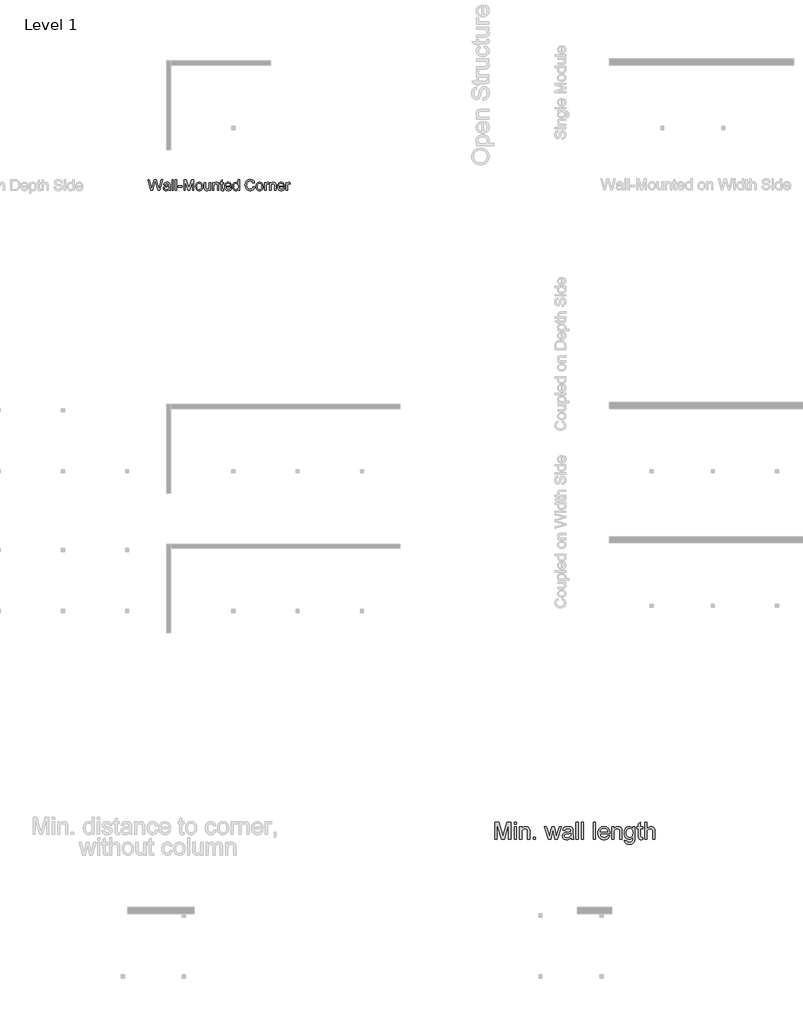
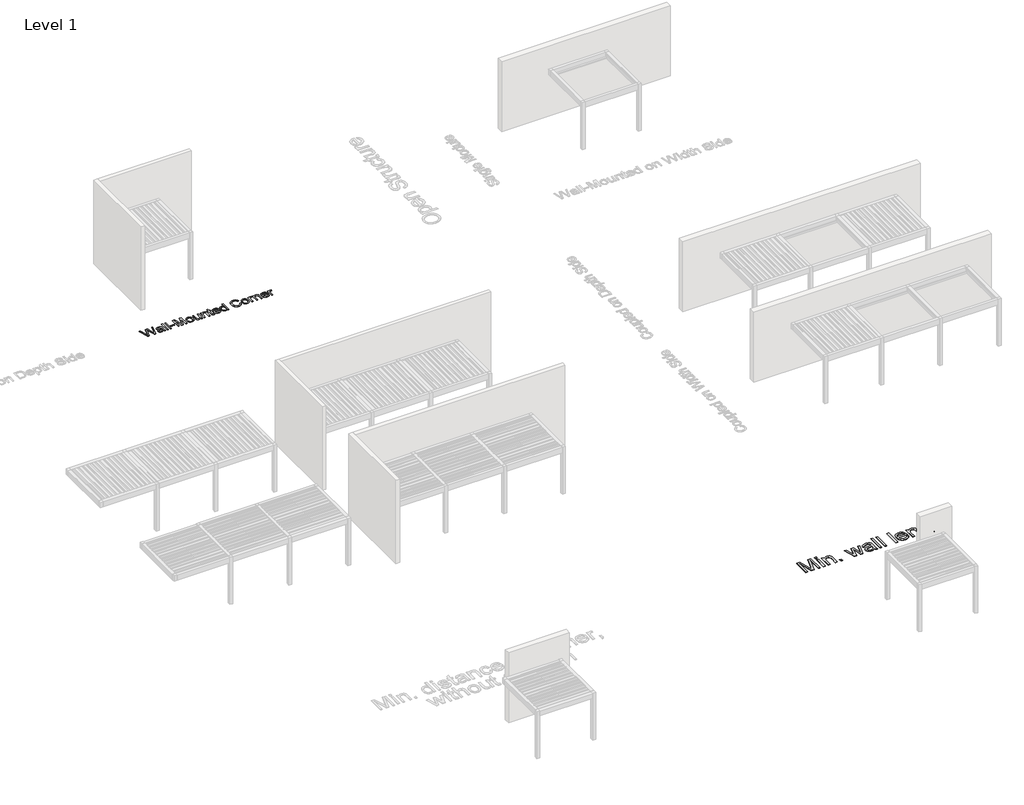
# One storey, part 60 of 80: 2 proxies.
"""IFC4 building model written with IfcOpenShell, lengths in millimetres."""

from ifc_helpers import new_model, si_unit, origin, origin_with_axes, place, context, project, spatial, polyline, outline, extrude, element, save

model = new_model("IFC4")

# Units and contexts
model_context = context("Model", 3, world=origin())
ifc_project = project(units=[si_unit("LENGTHUNIT", "METRE", prefix="MILLI")], contexts=[model_context])

# Site, building, storey
site = spatial("IfcSite", under=ifc_project)
building = spatial("IfcBuilding", under=site)
storey = spatial("IfcBuildingStorey", under=building, Name="Level 1", Elevation=0.0)

# Proxies
placement = place(None, origin())
element("IfcBuildingElementProxy", 1, Name="500mm Arial", ObjectType="500mm Arial", at=placement, inside=storey, context=model_context, shape_type="SweptSolid", body=[
    extrude(outline(polyline([(152943.9128055, 63184.635256), (152806.938076, 63686.9168067), (152871.6853072, 63686.9168067), (152951.1478181, 63356.8040297), (152975.6732845, 63254.9007171), (153001.9155334, 63345.0318059), (153101.4889268, 63686.9168067), (153194.8083262, 63686.9168067), (153267.158452, 63439.0869693), (153298.1525101, 63347.1164705), (153320.9918506, 63254.9007171), (153344.7815529, 63353.8609738), (153424.9798279, 63686.9168067), (153489.727059, 63686.9168067), (153352.6297022, 63184.635256), (153285.5525517, 63184.635256), (153165.132512, 63572.1376242), (153148.3325675, 63626.2162775), (153129.4479584, 63561.1011644), (153019.6964965, 63184.635256), (152943.9128055, 63184.635256)])), origin_with_axes(), (0.0, 0.0, 1.0), 5.0),
    extrude(outline(polyline([(153780.1085806, 63231.7241514), (153750.1108696, 63206.0030685), (153719.2241104, 63189.1724673), (153686.7431959, 63179.8834469), (153651.9630189, 63176.7871068), (153624.0078194, 63178.6495094), (153599.4938494, 63184.2367172), (153578.4211088, 63193.5487302), (153560.7895978, 63206.5855484), (153546.8675635, 63222.5194373), (153536.9232533, 63240.5226624), (153530.9566672, 63260.5952238), (153528.9678052, 63282.7371214), (153531.9721748, 63308.7647725), (153540.9852837, 63332.4011907), (153554.8881574, 63352.6347005), (153572.5618216, 63368.4536262), (153593.3318259, 63380.4097911), (153616.5237201, 63389.055018), (153670.847628, 63398.4973225), (153735.0430362, 63408.4301364), (153779.7406986, 63420.0797329), (153780.1085806, 63434.0592487), (153775.7859671, 63462.079594), (153762.8181268, 63480.4123801), (153749.7429876, 63488.3524998), (153733.8167628, 63494.0240139), (153693.411057, 63498.5612252), (153656.0097209, 63495.5415272), (153629.8900992, 63486.482433), (153612.0784793, 63469.7284738), (153599.6011483, 63443.6241806), (153536.8159544, 63451.4723298), (153547.7144585, 63485.8079827), (153563.9779084, 63512.7859957), (153587.1238173, 63533.4180443), (153618.6696984, 63548.7158039), (153657.2513226, 63558.1887653), (153701.5044609, 63561.3464191), (153743.9488461, 63558.5566473), (153777.5947203, 63550.1873319), (153802.9632495, 63537.6027019), (153820.5756, 63522.1669866), (153832.2558534, 63503.0831081), (153839.8280911, 63479.5539888), (153842.8937744, 63424.6169442), (153842.8937744, 63346.5033339), (153846.082085, 63237.4263223), (153850.8032373, 63210.4636377), (153858.5900729, 63184.635256), (153795.804879, 63184.635256), (153785.7494378, 63206.462921), (153780.1085806, 63231.7241514)]), holes=[polyline([(153780.1085806, 63357.2945391), (153737.9247785, 63346.840559), (153678.8184046, 63338.042048), (153624.8010649, 63327.8639794), (153610.744907, 63320.9048784), (153600.3369123, 63311.3092897), (153593.8989773, 63299.8129773), (153591.752999, 63287.1517053), (153596.4281661, 63268.4816941), (153610.4536671, 63253.1839344), (153633.5229339, 63242.9752091), (153665.3293981, 63239.5723006), (153699.0519143, 63243.3277626), (153728.8503559, 63254.5941487), (153753.0079403, 63271.1948238), (153769.8078847, 63290.9531526), (153777.2574951, 63311.3092897), (153779.7406986, 63339.513576), (153780.1085806, 63357.2945391)])]), origin_with_axes(), (0.0, 0.0, 1.0), 5.0),
    extrude(outline(polyline([(153929.223416, 63184.635256), (153929.223416, 63686.9168067), (153992.0086098, 63686.9168067), (153992.0086098, 63184.635256), (153929.223416, 63184.635256)])), origin_with_axes(), (0.0, 0.0, 1.0), 5.0),
    extrude(outline(polyline([(154086.1864006, 63184.635256), (154086.1864006, 63686.9168067), (154148.9715944, 63686.9168067), (154148.9715944, 63184.635256), (154086.1864006, 63184.635256)])), origin_with_axes(), (0.0, 0.0, 1.0), 5.0),
    extrude(outline(polyline([(154211.7567882, 63333.7500914), (154211.7567882, 63396.5352852), (154407.960519, 63396.5352852), (154407.960519, 63333.7500914), (154211.7567882, 63333.7500914)])), origin_with_axes(), (0.0, 0.0, 1.0), 5.0),
    extrude(outline(polyline([(154486.4420113, 63184.635256), (154486.4420113, 63686.9168067), (154594.4766906, 63686.9168067), (154697.2383946, 63332.8917), (154717.9624136, 63258.947419), (154740.4032153, 63339.0230666), (154841.4481367, 63686.9168067), (154949.4828159, 63686.9168067), (154949.4828159, 63184.635256), (154886.6976221, 63184.635256), (154886.6976221, 63624.1316129), (154760.5140977, 63184.635256), (154675.4107295, 63184.635256), (154549.2272052, 63624.1316129), (154549.2272052, 63184.635256), (154486.4420113, 63184.635256)])), origin_with_axes(), (0.0, 0.0, 1.0), 5.0),
    extrude(outline(polyline([(155035.8124574, 63369.0667629), (155039.2077017, 63416.8377728), (155049.3934344, 63458.0022352), (155066.3696557, 63492.5601502), (155090.1363654, 63520.5115176), (155114.0640235, 63538.376787), (155140.4748851, 63551.1376937), (155169.3689501, 63558.7942377), (155200.7462186, 63561.3464191), (155235.3846077, 63558.2385826), (155266.7043947, 63548.9150733), (155294.7055794, 63533.3758911), (155319.3881621, 63511.621036), (155339.5335334, 63484.3862721), (155353.9230844, 63452.4073632), (155362.5568149, 63415.6843095), (155365.4347251, 63374.2171108), (155360.3456909, 63310.7881235), (155353.984398, 63284.7528081), (155345.0785881, 63262.5036116), (155333.739392, 63243.2856095), (155320.0779408, 63226.3438772), (155304.0942345, 63211.6784147), (155285.7882732, 63199.2892221), (155245.0606706, 63182.4126356), (155200.7462186, 63176.7871068), (155165.6019918, 63179.8834469), (155133.9909649, 63189.1724673), (155105.913138, 63204.6541679), (155081.3685112, 63226.3285488), (155061.4377377, 63253.8277279), (155047.2014709, 63286.7838233), (155038.6597108, 63325.196835), (155035.8124574, 63369.0667629)]), holes=[polyline([(155098.5976513, 63369.1893902), (155100.4140686, 63338.7356588), (155105.8633207, 63312.3669504), (155114.9454074, 63290.083265), (155127.6603289, 63271.8846025), (155143.1267011, 63257.7479704), (155160.4631401, 63247.6503761), (155179.669646, 63241.5918195), (155200.7462186, 63239.5723006), (155221.7154923, 63241.6033158), (155240.8453561, 63247.6963613), (155258.1358099, 63257.8514372), (155273.5868537, 63272.0685435), (155286.3017751, 63290.4473149), (155295.3838619, 63313.087386), (155300.8331139, 63339.9887569), (155302.6495313, 63371.1514275), (155300.8216176, 63400.6394687), (155295.3378766, 63426.3183984), (155286.1983083, 63448.1882166), (155273.4029127, 63466.2489233), (155257.8943873, 63480.3855554), (155240.6154298, 63490.4831497), (155221.5660403, 63496.5417063), (155200.7462186, 63498.5612252), (155179.669646, 63496.5493705), (155160.4631401, 63490.5138066), (155143.1267011, 63480.4545333), (155127.6603289, 63466.3715506), (155114.9454074, 63448.2265376), (155105.8633207, 63425.9811732), (155100.4140686, 63399.6354574), (155098.5976513, 63369.1893902)])]), origin_with_axes(), (0.0, 0.0, 1.0), 5.0),
    extrude(outline(polyline([(155671.5125451, 63184.635256), (155671.5125451, 63248.0335865), (155648.7958319, 63216.8632516), (155622.3389851, 63194.5987267), (155592.1420047, 63181.2400117), (155558.2048906, 63176.7871068), (155527.6246997, 63179.9141037), (155499.1598304, 63189.2950946), (155475.2781575, 63203.3972377), (155458.4475562, 63220.6876915), (155447.1198565, 63241.6876221), (155439.7468881, 63266.9181956), (155436.0680682, 63325.2888055), (155436.0680682, 63553.4982698), (155498.853262, 63553.4982698), (155498.853262, 63354.8419924), (155502.6547093, 63290.8305253), (155511.805774, 63269.4780411), (155527.486744, 63253.2452481), (155548.6552871, 63242.9905375), (155574.2690711, 63239.5723006), (155601.3543829, 63243.0671796), (155626.6922554, 63253.5518164), (155647.584887, 63270.060521), (155661.3344766, 63291.6276029), (155668.968028, 63321.1654615), (155671.5125451, 63361.5864957), (155671.5125451, 63553.4982698), (155734.297739, 63553.4982698), (155734.297739, 63184.635256), (155671.5125451, 63184.635256)])), origin_with_axes(), (0.0, 0.0, 1.0), 5.0),
    extrude(outline(polyline([(155820.6273805, 63184.635256), (155820.6273805, 63553.4982698), (155883.4125743, 63553.4982698), (155883.4125743, 63501.9947905), (155905.224911, 63527.961128), (155931.4211747, 63546.5085119), (155962.0013656, 63557.6369423), (155996.9654835, 63561.3464191), (156027.9135564, 63558.3573778), (156056.2557984, 63549.3902542), (156079.8922166, 63535.5640226), (156096.7228179, 63517.9976573), (156108.1424881, 63496.7371436), (156115.5461133, 63471.8284669), (156118.8570512, 63411.1279377), (156118.8570512, 63184.635256), (156056.0718574, 63184.635256), (156056.0718574, 63402.6666518), (156054.2631043, 63435.1322379), (156048.8368448, 63458.2168331), (156038.8273889, 63474.7561944), (156023.2690462, 63487.586079), (156003.3267763, 63495.8174387), (155980.1655391, 63498.5612252), (155961.1008211, 63497.0207194), (155943.392668, 63492.3992018), (155927.0410797, 63484.6966725), (155912.0460563, 63473.9131315), (155899.5189079, 63458.8223055), (155890.5709448, 63438.1979212), (155885.202167, 63412.0399785), (155883.4125743, 63380.3484774), (155883.4125743, 63184.635256), (155820.6273805, 63184.635256)])), origin_with_axes(), (0.0, 0.0, 1.0), 5.0),
    extrude(outline(polyline([(156338.6052297, 63236.9971266), (156346.4533789, 63182.795846), (156299.4871109, 63176.7871068), (156269.3514441, 63179.3929376), (156246.8799856, 63187.21043), (156230.9997461, 63199.2585653), (156220.6377366, 63214.5563249), (156214.9355657, 63240.8292308), (156213.034842, 63285.8028047), (156213.034842, 63490.713076), (156165.9459466, 63490.713076), (156165.9459466, 63553.4982698), (156213.034842, 63553.4982698), (156213.034842, 63643.1388493), (156275.8200359, 63680.0496762), (156275.8200359, 63553.4982698), (156338.6052297, 63553.4982698), (156338.6052297, 63490.713076), (156275.8200359, 63490.713076), (156275.8200359, 63287.6422146), (156279.1309738, 63255.2685991), (156289.8608653, 63243.8029435), (156311.2593347, 63239.5723006), (156338.6052297, 63236.9971266)])), origin_with_axes(), (0.0, 0.0, 1.0), 5.0),
    extrude(outline(polyline([(156659.6435842, 63294.5093452), (156721.2025047, 63286.661196), (156711.7640322, 63262.0054381), (156699.0222861, 63240.2774078), (156682.9772661, 63221.477105), (156663.6289724, 63205.6045297), (156641.1766744, 63192.9969072), (156615.8196415, 63183.9914625), (156587.5578736, 63178.5881957), (156556.3913708, 63176.7871068), (156517.4342004, 63179.8949432), (156482.7230013, 63189.2184525), (156452.2577736, 63204.7576347), (156426.0385172, 63226.5124898), (156404.9542804, 63253.8775453), (156389.8941112, 63286.2473287), (156380.8580097, 63323.6218402), (156377.8459759, 63366.0010796), (156380.8886665, 63409.8173581), (156390.0167385, 63448.4373034), (156405.2301919, 63481.8609155), (156426.5290265, 63510.0881944), (156452.679305, 63532.5136677), (156482.4470898, 63548.5318629), (156515.8323809, 63558.14278), (156552.8351782, 63561.3464191), (156588.6461912, 63558.1504442), (156621.0313031, 63548.5625197), (156649.9905139, 63532.5826456), (156675.5238236, 63510.2108217), (156696.3666379, 63482.0448565), (156711.2543624, 63448.682558), (156720.1869971, 63410.1239264), (156723.164542, 63366.3689616), (156722.79666, 63349.4463898), (156440.6311697, 63349.4463898), (156444.2678365, 63324.3920931), (156451.499017, 63302.4494649), (156462.3247111, 63283.6185053), (156476.7449189, 63267.8992142), (156493.9625627, 63255.5061895), (156513.1805648, 63246.654029), (156534.3989253, 63241.3427327), (156557.6176442, 63239.5723006), (156591.0335921, 63242.8525817), (156619.1765647, 63252.6934251), (156642.0465621, 63269.7079674), (156659.6435842, 63294.5093452)]), holes=[polyline([(156440.6311697, 63412.2315837), (156660.3793481, 63412.2315837), (156651.8874054, 63445.4022769), (156635.2407451, 63469.1306656), (156618.1189039, 63482.0065354), (156598.6364866, 63491.2035853), (156576.7934932, 63496.7218152), (156552.5899236, 63498.5612252), (156510.2681657, 63492.6904417), (156491.8549054, 63485.3519623), (156475.2733909, 63475.0780912), (156461.3590209, 63462.3440092), (156450.947194, 63447.6248973), (156444.0379103, 63430.9207554), (156440.6311697, 63412.2315837)])]), origin_with_axes(), (0.0, 0.0, 1.0), 5.0),
    extrude(outline(polyline([(157013.5460635, 63184.635256), (157013.5460635, 63243.8642572), (156994.7610891, 63214.5180039), (156972.0060549, 63193.5563944), (156945.2809608, 63180.9794287), (156914.5858068, 63176.7871068), (156873.99616, 63182.8571597), (156836.8400785, 63201.0673184), (156805.3861679, 63230.1453245), (156781.9030339, 63268.8189192), (156767.2797246, 63315.5246042), (156762.4052881, 63368.6988809), (156766.8965142, 63421.2140357), (156780.3701922, 63468.6401563), (156790.4716187, 63489.7703784), (156802.8109939, 63508.2794412), (156817.388318, 63524.1673449), (156834.2035909, 63537.4340894), (156872.1720785, 63555.3683366), (156914.3405521, 63561.3464191), (156945.0586987, 63557.0697909), (156972.2206527, 63544.2399063), (156995.2439343, 63524.573548), (157013.5460635, 63499.7874985), (157013.5460635, 63686.9168067), (157076.3312574, 63686.9168067), (157076.3312574, 63184.635256), (157013.5460635, 63184.635256)]), holes=[polyline([(156825.190482, 63368.9441356), (156826.9609141, 63338.4980684), (156832.2722104, 63312.1523526), (156841.1243709, 63289.9069882), (156853.5173956, 63271.7619752), (156868.3169817, 63257.6789926), (156884.3888264, 63247.6197192), (156901.7329296, 63241.5841553), (156920.3492914, 63239.5723006), (156939.0537916, 63241.4921848), (156956.294428, 63247.2518373), (156972.0712007, 63256.8512581), (156986.3841095, 63270.2904472), (156998.2674644, 63287.6767036), (157006.755575, 63309.1173261), (157011.8484414, 63334.6123148), (157013.5460635, 63364.1616696), (157011.8177846, 63396.5582778), (157006.6329477, 63424.3410327), (156997.9915529, 63447.5099342), (156985.8936002, 63466.0649823), (156971.2664588, 63480.2820886), (156955.0374979, 63490.4371645), (156937.2067174, 63496.53021), (156917.7741174, 63498.5612252), (156898.7898736, 63496.6106842), (156881.4457704, 63490.7590612), (156865.7418077, 63481.0063563), (156851.6779856, 63467.3525693), (156840.0897028, 63449.4987962), (156831.8123579, 63427.1461329), (156826.845951, 63400.2945794), (156825.190482, 63368.9441356)])]), origin_with_axes(), (0.0, 0.0, 1.0), 5.0),
    extrude(outline(polyline([(157727.7276435, 63363.180651), (157790.5128373, 63346.9938432), (157778.0891558, 63307.9485344), (157761.5421302, 63273.8313114), (157740.8717606, 63244.6421744), (157716.078047, 63220.3811232), (157687.7204765, 63201.308741), (157656.3585364, 63187.6856109), (157621.9922267, 63179.5117328), (157584.6215474, 63176.7871068), (157546.3349951, 63178.8487788), (157511.7962407, 63185.0337948), (157481.0052842, 63195.3421549), (157453.9621254, 63209.773859), (157430.2950504, 63228.1143093), (157409.632345, 63250.148908), (157391.9740092, 63275.877655), (157377.3200431, 63305.3005504), (157365.8122344, 63337.1453356), (157357.5923711, 63370.1397521), (157352.6604531, 63404.2837997), (157351.0164804, 63439.5774786), (157352.8750509, 63477.4463315), (157358.4507624, 63512.8166525), (157367.7436149, 63545.6884416), (157380.7536084, 63576.0616989), (157397.1895029, 63603.4344186), (157416.7600586, 63627.3045951), (157439.4652755, 63647.6722285), (157465.3051536, 63664.5373187), (157493.402141, 63677.76191), (157522.8786858, 63687.2080467), (157553.7347882, 63692.8757286), (157585.970448, 63694.764956), (157621.8810957, 63692.3200735), (157654.8103664, 63684.9854263), (157684.75826, 63672.7610141), (157711.7247767, 63655.6468371), (157735.2653923, 63634.0950836), (157754.9355827, 63608.5579418), (157770.735348, 63579.0354117), (157782.6646881, 63545.5274933), (157719.8794943, 63530.5669588), (157709.9926656, 63555.2572056), (157698.1131429, 63576.3529388), (157684.240926, 63593.8541583), (157668.3760149, 63607.7608641), (157650.4264392, 63618.356632), (157630.3002284, 63625.9250376), (157607.9973825, 63630.466081), (157583.5179014, 63631.9797621), (157555.3519361, 63630.3013005), (157529.5925322, 63625.2659157), (157506.2396898, 63616.8736077), (157485.2934087, 63605.1243765), (157467.0181041, 63590.5470524), (157451.6781914, 63573.6704659), (157439.2736703, 63554.4946169), (157429.8045411, 63533.0195054), (157417.802391, 63487.0649129), (157413.8016743, 63439.700106), (157418.538155, 63381.6973781), (157432.747597, 63331.5427994), (157443.5388022, 63309.887579), (157456.966495, 63291.152422), (157473.0306755, 63275.3373283), (157491.7313436, 63262.442298), (157533.4093079, 63245.2897999), (157578.3675534, 63239.5723006), (157605.6636311, 63241.5190095), (157630.7754093, 63247.3591362), (157653.7028883, 63257.0926806), (157674.4460679, 63270.7196429), (157692.5144388, 63288.1787092), (157707.4174917, 63309.408566), (157719.1552266, 63334.4092133), (157727.7276435, 63363.180651)])), origin_with_axes(), (0.0, 0.0, 1.0), 5.0),
    extrude(outline(polyline([(157853.2980312, 63369.0667629), (157856.6932754, 63416.8377728), (157866.8790082, 63458.0022352), (157883.8552294, 63492.5601502), (157907.6219391, 63520.5115176), (157931.5495972, 63538.376787), (157957.9604588, 63551.1376937), (157986.8545238, 63558.7942377), (158018.2317923, 63561.3464191), (158052.8701815, 63558.2385826), (158084.1899684, 63548.9150733), (158112.1911532, 63533.3758911), (158136.8737358, 63511.621036), (158157.0191071, 63484.3862721), (158171.4086581, 63452.4073632), (158180.0423887, 63415.6843095), (158182.9202989, 63374.2171108), (158177.8312646, 63310.7881235), (158171.4699718, 63284.7528081), (158162.5641618, 63262.5036116), (158151.2249657, 63243.2856095), (158137.5635145, 63226.3438772), (158121.5798083, 63211.6784147), (158103.2738469, 63199.2892221), (158062.5462443, 63182.4126356), (158018.2317923, 63176.7871068), (157983.0875655, 63179.8834469), (157951.4765386, 63189.1724673), (157923.3987118, 63204.6541679), (157898.8540849, 63226.3285488), (157878.9233114, 63253.8277279), (157864.6870446, 63286.7838233), (157856.1452845, 63325.196835), (157853.2980312, 63369.0667629)]), holes=[polyline([(157916.083225, 63369.1893902), (157917.8996424, 63338.7356588), (157923.3488944, 63312.3669504), (157932.4309812, 63290.083265), (157945.1459026, 63271.8846025), (157960.6122748, 63257.7479704), (157977.9487139, 63247.6503761), (157997.1552197, 63241.5918195), (158018.2317923, 63239.5723006), (158039.2010661, 63241.6033158), (158058.3309298, 63247.6963613), (158075.6213836, 63257.8514372), (158091.0724274, 63272.0685435), (158103.7873488, 63290.4473149), (158112.8694356, 63313.087386), (158118.3186877, 63339.9887569), (158120.135105, 63371.1514275), (158118.3071913, 63400.6394687), (158112.8234504, 63426.3183984), (158103.683882, 63448.1882166), (158090.8884864, 63466.2489233), (158075.379961, 63480.3855554), (158058.1010036, 63490.4831497), (158039.051614, 63496.5417063), (158018.2317923, 63498.5612252), (157997.1552197, 63496.5493705), (157977.9487139, 63490.5138066), (157960.6122748, 63480.4545333), (157945.1459026, 63466.3715506), (157932.4309812, 63448.2265376), (157923.3488944, 63425.9811732), (157917.8996424, 63399.6354574), (157916.083225, 63369.1893902)])]), origin_with_axes(), (0.0, 0.0, 1.0), 5.0),
    extrude(outline(polyline([(158253.5536419, 63184.635256), (158253.5536419, 63553.4982698), (158308.4906865, 63553.4982698), (158308.4906865, 63498.9291072), (158328.7855099, 63530.5669588), (158347.486178, 63549.2063132), (158366.2481598, 63558.3113926), (158386.7269242, 63561.3464191), (158417.9968938, 63556.5026394), (158449.7573727, 63541.9713006), (158428.788099, 63485.6853554), (158406.7151793, 63495.3422578), (158384.6422595, 63498.5612252), (158365.8956062, 63495.4648851), (158349.141647, 63486.1758647), (158335.6066553, 63471.3992712), (158326.5169043, 63451.8402118), (158318.8833529, 63416.7687949), (158316.3388358, 63378.5090674), (158316.3388358, 63184.635256), (158253.5536419, 63184.635256)])), origin_with_axes(), (0.0, 0.0, 1.0), 5.0),
    extrude(outline(polyline([(158488.9981188, 63184.635256), (158488.9981188, 63553.4982698), (158551.7833127, 63553.4982698), (158551.7833127, 63501.9947905), (158573.5956493, 63527.961128), (158599.7919131, 63546.5085119), (158630.3721039, 63557.6369423), (158665.3362219, 63561.3464191), (158696.2842947, 63558.3573778), (158724.6265367, 63549.3902542), (158748.2629549, 63535.5640226), (158765.0935562, 63517.9976573), (158776.5132265, 63496.7371436), (158783.9168516, 63471.8284669), (158787.2277896, 63411.1279377), (158787.2277896, 63184.635256), (158724.4425958, 63184.635256), (158724.4425958, 63402.6666518), (158722.6338426, 63435.1322379), (158717.2075832, 63458.2168331), (158707.1981272, 63474.7561944), (158691.6397845, 63487.586079), (158671.6975147, 63495.8174387), (158648.5362774, 63498.5612252), (158629.4715594, 63497.0207194), (158611.7634063, 63492.3992018), (158595.411818, 63484.6966725), (158580.4167946, 63473.9131315), (158567.8896463, 63458.8223055), (158558.9416832, 63438.1979212), (158553.5729053, 63412.0399785), (158551.7833127, 63380.3484774), (158551.7833127, 63184.635256), (158488.9981188, 63184.635256)])), origin_with_axes(), (0.0, 0.0, 1.0), 5.0),
    extrude(outline(polyline([(159131.8105917, 63294.5093452), (159193.3695123, 63286.661196), (159183.9310398, 63262.0054381), (159171.1892936, 63240.2774078), (159155.1442737, 63221.477105), (159135.79598, 63205.6045297), (159113.343682, 63192.9969072), (159087.9866491, 63183.9914625), (159059.7248812, 63178.5881957), (159028.5583784, 63176.7871068), (158989.601208, 63179.8949432), (158954.8900089, 63189.2184525), (158924.4247812, 63204.7576347), (158898.2055248, 63226.5124898), (158877.121288, 63253.8775453), (158862.0611188, 63286.2473287), (158853.0250173, 63323.6218402), (158850.0129834, 63366.0010796), (158853.0556741, 63409.8173581), (158862.1837461, 63448.4373034), (158877.3971995, 63481.8609155), (158898.6960341, 63510.0881944), (158924.8463126, 63532.5136677), (158954.6140974, 63548.5318629), (158987.9993885, 63558.14278), (159025.0021858, 63561.3464191), (159060.8131988, 63558.1504442), (159093.1983107, 63548.5625197), (159122.1575215, 63532.5826456), (159147.6908312, 63510.2108217), (159168.5336455, 63482.0448565), (159183.42137, 63448.682558), (159192.3540047, 63410.1239264), (159195.3315496, 63366.3689616), (159194.9636676, 63349.4463898), (158912.7981773, 63349.4463898), (158916.4348441, 63324.3920931), (158923.6660246, 63302.4494649), (158934.4917187, 63283.6185053), (158948.9119265, 63267.8992142), (158966.1295703, 63255.5061895), (158985.3475724, 63246.654029), (159006.5659329, 63241.3427327), (159029.7846517, 63239.5723006), (159063.2005996, 63242.8525817), (159091.3435723, 63252.6934251), (159114.2135696, 63269.7079674), (159131.8105917, 63294.5093452)]), holes=[polyline([(158912.7981773, 63412.2315837), (159132.5463557, 63412.2315837), (159124.054413, 63445.4022769), (159107.4077527, 63469.1306656), (159090.2859115, 63482.0065354), (159070.8034942, 63491.2035853), (159048.9605007, 63496.7218152), (159024.7569311, 63498.5612252), (158982.4351733, 63492.6904417), (158964.021913, 63485.3519623), (158947.4403985, 63475.0780912), (158933.5260284, 63462.3440092), (158923.1142016, 63447.6248973), (158916.2049178, 63430.9207554), (158912.7981773, 63412.2315837)])]), origin_with_axes(), (0.0, 0.0, 1.0), 5.0),
    extrude(outline(polyline([(159258.1167434, 63184.635256), (159258.1167434, 63553.4982698), (159313.053788, 63553.4982698), (159313.053788, 63498.9291072), (159333.3486114, 63530.5669588), (159352.0492795, 63549.2063132), (159370.8112613, 63558.3113926), (159391.2900257, 63561.3464191), (159422.5599953, 63556.5026394), (159454.3204742, 63541.9713006), (159433.3512005, 63485.6853554), (159411.2782807, 63495.3422578), (159389.205361, 63498.5612252), (159370.4587077, 63495.4648851), (159353.7047485, 63486.1758647), (159340.1697568, 63471.3992712), (159331.0800058, 63451.8402118), (159323.4464544, 63416.7687949), (159320.9019373, 63378.5090674), (159320.9019373, 63184.635256), (159258.1167434, 63184.635256)])), origin_with_axes(), (0.0, 0.0, 1.0), 5.0),
])
element("IfcBuildingElementProxy", 2, Name="800mm Arial", ObjectType="800mm Arial", at=placement, inside=storey, context=model_context, shape_type="SweptSolid", body=[
    extrude(outline(polyline([(169014.3601901, 32902.4008009), (169014.3601901, 33701.7894992), (169186.299019, 33701.7894992), (169349.8458279, 33138.3531779), (169382.8284182, 33020.6697343), (169418.5432941, 33148.1113407), (169579.3578174, 33701.7894992), (169751.2966464, 33701.7894992), (169751.2966464, 32902.4008009), (169651.3730591, 32902.4008009), (169651.3730591, 33601.8659119), (169450.5500682, 32902.4008009), (169315.1067682, 32902.4008009), (169114.2837774, 33601.8659119), (169114.2837774, 32902.4008009), (169014.3601901, 32902.4008009)])), origin_with_axes(), (0.0, 0.0, 1.0), 5.0),
    extrude(outline(polyline([(169913.6724757, 33601.8659119), (169913.6724757, 33701.7894992), (170013.596063, 33701.7894992), (170013.596063, 33601.8659119), (169913.6724757, 33601.8659119)])), origin_with_axes(), (0.0, 0.0, 1.0), 5.0),
    extrude(outline(polyline([(169913.6724757, 32902.4008009), (169913.6724757, 33489.4518762), (170013.596063, 33489.4518762), (170013.596063, 32902.4008009), (169913.6724757, 32902.4008009)])), origin_with_axes(), (0.0, 0.0, 1.0), 5.0),
    extrude(outline(polyline([(170163.4814439, 32902.4008009), (170163.4814439, 33489.4518762), (170263.4050312, 33489.4518762), (170263.4050312, 33407.4833085), (170279.8902275, 33429.6221404), (170298.1196955, 33448.8091281), (170318.093435, 33465.0442715), (170339.8114461, 33478.3275706), (170363.2737289, 33488.6590255), (170388.4802832, 33496.0386361), (170444.1262067, 33501.9423246), (170493.3805335, 33497.1852202), (170538.4876412, 33482.9139071), (170576.1053588, 33460.90925), (170602.8915158, 33432.9521135), (170621.066094, 33399.1156839), (170632.8490757, 33359.4731474), (170636.8011316, 33321.5626849), (170638.1184836, 33262.8673355), (170638.1184836, 32902.4008009), (170538.1948963, 32902.4008009), (170538.1948963, 33249.4010708), (170535.3162383, 33301.0705429), (170526.6802642, 33337.810026), (170510.7500633, 33364.1326702), (170485.9887252, 33384.5516259), (170454.2503006, 33397.6519595), (170417.3888406, 33402.0187373), (170387.047053, 33399.5669989), (170358.864259, 33392.2117837), (170332.8404586, 33379.9530917), (170308.9756516, 33362.7909228), (170289.0385052, 33338.7736445), (170274.7976863, 33305.9496244), (170266.253195, 33264.3188622), (170263.4050312, 33213.8813581), (170263.4050312, 32902.4008009), (170163.4814439, 32902.4008009)])), origin_with_axes(), (0.0, 0.0, 1.0), 5.0),
    extrude(outline(polyline([(170800.4943129, 32902.4008009), (170800.4943129, 33002.3243882), (170900.4179002, 33002.3243882), (170900.4179002, 32902.4008009), (170800.4943129, 32902.4008009)])), origin_with_axes(), (0.0, 0.0, 1.0), 5.0),
    extrude(outline(polyline([(171497.4223016, 32902.4008009), (171318.847922, 33489.4518762), (171422.6747744, 33489.4518762), (171523.9645045, 33146.9403612), (171554.2148093, 33024.5729994), (171579.0005428, 33142.4516063), (171659.6029677, 33489.4518762), (171778.6525542, 33489.4518762), (171858.8646526, 33143.4274226), (171880.9181005, 33036.6731213), (171912.5345481, 33149.2823203), (172014.0194414, 33489.4518762), (172118.2366203, 33489.4518762), (171938.2960979, 32902.4008009), (171817.4900422, 32902.4008009), (171740.7908824, 33246.6687852), (171718.5422712, 33354.0085762), (171619.5945002, 32902.4008009), (171497.4223016, 32902.4008009)])), origin_with_axes(), (0.0, 0.0, 1.0), 5.0),
    extrude(outline(polyline([(172561.647539, 32977.3434913), (172513.9057274, 32936.4079983), (172489.5042215, 32921.2462528), (172464.7489821, 32909.6218414), (172413.0551146, 32894.8382247), (172357.701936, 32889.9103525), (172313.2108124, 32892.8743944), (172274.1964576, 32901.7665203), (172240.6588718, 32916.5867301), (172212.5980548, 32937.3350238), (172190.4409264, 32962.6940494), (172174.6144061, 32991.346455), (172165.1184939, 33023.2922405), (172161.9531898, 33058.531406), (172166.7346896, 33099.9548072), (172181.0791889, 33137.5725249), (172203.2058231, 33169.7744622), (172231.3337275, 33194.9505223), (172264.389504, 33213.9789398), (172301.2997549, 33227.7379493), (172387.7570775, 33242.7655201), (172489.9250422, 33258.5737439), (172561.0620492, 33277.1142532), (172561.647539, 33299.3628644), (172559.9276628, 33323.5875037), (172554.7680342, 33343.9576685), (172546.1686532, 33360.4733591), (172534.1295198, 33373.1345754), (172513.3202376, 33385.7713962), (172487.9734097, 33394.7976968), (172458.089036, 33400.2134772), (172423.6671167, 33402.0187373), (172364.1423235, 33397.2128421), (172341.1130592, 33391.2054732), (172322.5725498, 33382.7951566), (172307.3376181, 33371.3232164), (172294.2250868, 33356.1309767), (172283.234956, 33337.2184373), (172274.3672255, 33314.5855985), (172174.4436382, 33327.0760469), (172191.7887726, 33381.7217587), (172203.663237, 33404.6534413), (172217.6722995, 33424.6576751), (172234.4197464, 33442.1369842), (172254.5093642, 33457.493893), (172277.9411526, 33470.7284013), (172304.7151119, 33481.8405092), (172366.1183514, 33496.9168708), (172436.5478916, 33501.9423246), (172504.0987737, 33497.5023605), (172557.6466922, 33484.1824683), (172598.0210909, 33464.1538391), (172626.0514136, 33439.5876642), (172644.6407138, 33409.2153824), (172656.6920448, 33371.7684326), (172660.3513559, 33337.2245362), (172661.5711263, 33284.3352937), (172661.5711263, 33160.0162994), (172662.8396874, 33051.7250874), (172666.6453709, 32986.4185828), (172674.1591563, 32943.5070618), (172686.5520231, 32902.4008009), (172586.6284358, 32902.4008009), (172570.6250488, 32937.1398605), (172561.647539, 32977.3434913)]), holes=[polyline([(172561.647539, 33177.1906659), (172494.5113787, 33160.5529983), (172400.4426891, 33146.5500347), (172348.6024492, 33138.8898768), (172314.4732747, 33130.3514844), (172292.1026864, 33119.2759696), (172275.538205, 33104.0044448), (172265.2921341, 33085.7078895), (172261.8767771, 33065.5572832), (172263.7369269, 33050.0296067), (172269.3173762, 33035.8436775), (172278.6181252, 33022.9994956), (172291.6391737, 33011.4970612), (172308.2585447, 33002.0194456), (172328.3542613, 32995.2497201), (172378.9747309, 32989.8339397), (172432.6446265, 32995.8108145), (172457.1376151, 33003.2819079), (172480.0692978, 33013.7414387), (172518.5164593, 33040.1616645), (172545.2538254, 33071.6073442), (172557.1099932, 33104.0044448), (172561.0620492, 33148.8919937), (172561.647539, 33177.1906659)])]), origin_with_axes(), (0.0, 0.0, 1.0), 5.0),
    extrude(outline(polyline([(172798.9660588, 32902.4008009), (172798.9660588, 33701.7894992), (172898.8896461, 33701.7894992), (172898.8896461, 32902.4008009), (172798.9660588, 32902.4008009)])), origin_with_axes(), (0.0, 0.0, 1.0), 5.0),
    extrude(outline(polyline([(173048.775027, 32902.4008009), (173048.775027, 33701.7894992), (173148.6986143, 33701.7894992), (173148.6986143, 32902.4008009), (173048.775027, 32902.4008009)])), origin_with_axes(), (0.0, 0.0, 1.0), 5.0),
    extrude(outline(polyline([(173610.8452055, 32902.4008009), (173610.8452055, 33701.7894992), (173710.7687928, 33701.7894992), (173710.7687928, 32902.4008009), (173610.8452055, 32902.4008009)])), origin_with_axes(), (0.0, 0.0, 1.0), 5.0),
    extrude(outline(polyline([(174271.6679918, 33077.2670786), (174369.6399465, 33064.7766302), (174354.6184746, 33025.536618), (174334.3397925, 32990.9561285), (174308.8039002, 32961.0351617), (174278.0107976, 32935.7737177), (174242.2776252, 32915.7084954), (174201.921523, 32901.3761938), (174156.9424913, 32892.7768128), (174107.3405299, 32889.9103525), (174045.3396029, 32894.8565212), (173990.0962036, 32909.6950276), (173941.6103321, 32934.4258715), (173899.8819883, 32969.0490529), (173866.3261059, 33012.6009534), (173842.3576185, 33064.1179542), (173827.976526, 33123.6000555), (173823.1828285, 33191.0472571), (173828.0253168, 33260.7815282), (173842.5527817, 33322.2457563), (173866.7652232, 33375.4399413), (173882.5033102, 33398.9357678), (173900.6626413, 33420.3640834), (173942.2812058, 33456.054564), (173989.6570863, 33481.5477643), (174042.7902828, 33496.8436845), (174101.6807955, 33501.9423246), (174158.6745652, 33496.8558823), (174210.2159614, 33481.5965551), (174256.3049842, 33456.1643433), (174296.9416335, 33420.5592467), (174330.1132883, 33375.7326862), (174353.8073274, 33322.6360828), (174368.0237508, 33261.2694363), (174372.7625586, 33191.6327469), (174372.1770689, 33164.7002175), (173923.1064158, 33164.7002175), (173928.8942261, 33124.8259247), (173940.4027594, 33089.9038995), (173957.6320157, 33059.9341419), (173980.5819948, 33034.916652), (174007.9841358, 33015.1929654), (174038.5698774, 33001.1046178), (174072.3392196, 32992.6516093), (174109.2921625, 32989.8339397), (174162.4741498, 32995.0545569), (174207.2641172, 33010.7164082), (174226.5120934, 33022.7067508), (174243.6620645, 33037.79531), (174258.7140307, 33055.982086), (174271.6679918, 33077.2670786)]), holes=[polyline([(173923.1064158, 33264.6238048), (174272.8389713, 33264.6238048), (174267.7037382, 33292.8980816), (174259.3239158, 33317.4154657), (174247.6995044, 33338.1759571), (174232.8305038, 33355.1795558), (174205.5808341, 33375.6716977), (174174.5742717, 33390.3089419), (174139.8108167, 33399.0912885), (174101.2904689, 33402.0187373), (174066.1549839, 33399.6828771), (174033.9347501, 33392.6752964), (174004.6297673, 33380.9959953), (173978.2400358, 33364.6449737), (173956.095105, 33344.3784893), (173939.5245248, 33320.9527997), (173928.528295, 33294.3679049), (173923.1064158, 33264.6238048)])]), origin_with_axes(), (0.0, 0.0, 1.0), 5.0),
    extrude(outline(polyline([(174472.6861459, 32902.4008009), (174472.6861459, 33489.4518762), (174572.6097332, 33489.4518762), (174572.6097332, 33407.4833085), (174589.0949295, 33429.6221404), (174607.3243975, 33448.8091281), (174627.298137, 33465.0442715), (174649.0161481, 33478.3275706), (174672.4784309, 33488.6590255), (174697.6849852, 33496.0386361), (174753.3309087, 33501.9423246), (174802.5852355, 33497.1852202), (174847.6923432, 33482.9139071), (174885.3100608, 33460.90925), (174912.0962178, 33432.9521135), (174930.270796, 33399.1156839), (174942.0537777, 33359.4731474), (174946.0058336, 33321.5626849), (174947.3231856, 33262.8673355), (174947.3231856, 32902.4008009), (174847.3995983, 32902.4008009), (174847.3995983, 33249.4010708), (174844.5209403, 33301.0705429), (174835.8849662, 33337.810026), (174819.9547653, 33364.1326702), (174795.1934272, 33384.5516259), (174763.4550026, 33397.6519595), (174726.5935426, 33402.0187373), (174696.251755, 33399.5669989), (174668.068961, 33392.2117837), (174642.0451606, 33379.9530917), (174618.1803536, 33362.7909228), (174598.2432072, 33338.7736445), (174584.0023883, 33305.9496244), (174575.457897, 33264.3188622), (174572.6097332, 33213.8813581), (174572.6097332, 32902.4008009), (174472.6861459, 32902.4008009)])), origin_with_axes(), (0.0, 0.0, 1.0), 5.0),
    extrude(outline(polyline([(175059.7372213, 32852.4390072), (175159.6608086, 32839.9485588), (175163.881214, 32823.1157279), (175170.6875326, 32808.7224378), (175180.0797643, 32796.7686883), (175192.0579091, 32787.2544796), (175211.44006, 32777.5207122), (175234.0668001, 32770.5680211), (175289.0540476, 32765.0058683), (175320.2557732, 32766.5793721), (175347.7006061, 32771.2998834), (175371.3885464, 32779.1674021), (175391.319594, 32790.1819284), (175407.9084708, 32804.0385196), (175421.5698987, 32820.4322332), (175432.3038778, 32839.363069), (175440.1104081, 32860.8310272), (175445.5261884, 32903.8157345), (175446.941122, 32977.3434913), (175413.6901822, 32944.5560643), (175376.5847681, 32921.1364735), (175335.6248797, 32907.084719), (175290.8105169, 32902.4008009), (175236.0245315, 32907.8531743), (175187.7887129, 32924.2102948), (175166.1271162, 32936.4781351), (175146.1030611, 32951.4721622), (175110.9675761, 32989.6387765), (175083.0897247, 33035.4289555), (175063.1769737, 33085.561517), (175051.2293231, 33140.036461), (175047.2467729, 33198.8537874), (175049.0337364, 33240.0027402), (175054.3946271, 33279.5293985), (175063.329445, 33317.4337622), (175075.8381899, 33353.7158314), (175091.7317976, 33387.1680333), (175110.8212037, 33416.5827953), (175133.106408, 33441.9601175), (175158.5874107, 33463.2999999), (175186.8555886, 33480.2060169), (175217.5023187, 33492.2817434), (175250.527601, 33499.5271793), (175285.9314355, 33501.9423246), (175332.6608377, 33496.4777534), (175375.0722529, 33480.0840399), (175413.165681, 33452.761184), (175446.941122, 33414.5091857), (175446.941122, 33489.4518762), (175546.8647093, 33489.4518762), (175546.8647093, 32982.6128993), (175545.1570308, 32919.1055558), (175540.0339954, 32865.5881316), (175531.4956029, 32822.0606266), (175519.5418534, 32788.5230407), (175503.886101, 32761.4746332), (175484.2416994, 32737.414663), (175460.6086488, 32716.3431301), (175432.9869492, 32698.2600346), (175401.6571477, 32683.7447674), (175366.8997915, 32673.3767194), (175328.7148806, 32667.1558906), (175287.102415, 32665.082281), (175238.1469319, 32668.003631), (175194.1315187, 32676.767681), (175155.0561755, 32691.374431), (175120.9209022, 32711.823881), (175093.3479933, 32738.1404263), (175073.9597436, 32770.3484625), (175062.7561529, 32808.4479895), (175059.7372213, 32852.4390072)]), holes=[polyline([(175147.1703602, 33205.6845014), (175149.8355584, 33156.2777032), (175157.831153, 33114.0309571), (175171.1571441, 33078.9442629), (175189.8135317, 33051.0176206), (175212.4951614, 33029.7143314), (175237.896879, 33014.4976963), (175266.0186845, 33005.3677152), (175296.8605778, 33002.3243882), (175327.3975286, 33005.3494186), (175355.3851594, 33014.4245101), (175380.8234701, 33029.5496624), (175403.7124607, 33050.7248758), (175422.6250001, 33078.3770697), (175436.1339567, 33112.9331637), (175444.2393307, 33154.393158), (175446.941122, 33202.7570525), (175444.1600456, 33249.1022271), (175435.8168164, 33289.385143), (175421.9114344, 33323.6058002), (175402.4438996, 33351.7641988), (175379.0609019, 33373.7505594), (175353.4091314, 33389.4551027), (175325.488588, 33398.8778287), (175295.2992718, 33402.0187373), (175265.6161603, 33398.9266195), (175238.2384147, 33389.650266), (175213.1660351, 33374.1896767), (175190.3990215, 33352.5448518), (175171.4864821, 33324.8133729), (175157.9775255, 33291.0928215), (175149.8721515, 33251.3831976), (175147.1703602, 33205.6845014)])]), origin_with_axes(), (0.0, 0.0, 1.0), 5.0),
    extrude(outline(polyline([(175909.0877133, 32985.7355114), (175921.5781617, 32899.473352), (175882.0088114, 32892.3011023), (175846.8306345, 32889.9103525), (175798.8692642, 32894.0575717), (175763.1055975, 32906.4992293), (175737.8319558, 32925.6740192), (175721.3406606, 32950.0206354), (175712.2655692, 32991.8343631), (175709.2405387, 33063.4104874), (175709.2405387, 33389.5282889), (175634.2978482, 33389.5282889), (175634.2978482, 33489.4518762), (175709.2405387, 33489.4518762), (175709.2405387, 33632.1162167), (175809.164126, 33690.8603568), (175809.164126, 33489.4518762), (175909.0877133, 33489.4518762), (175909.0877133, 33389.5282889), (175809.164126, 33389.5282889), (175809.164126, 33066.3379363), (175810.481478, 33033.4529276), (175814.4335339, 33014.8148366), (175821.3374341, 33004.4955794), (175831.5103188, 32996.5670721), (175845.9280044, 32991.5172228), (175865.5663071, 32989.8339397), (175909.0877133, 32985.7355114)])), origin_with_axes(), (0.0, 0.0, 1.0), 5.0),
    extrude(outline(polyline([(176009.0113006, 32902.4008009), (176009.0113006, 33701.7894992), (176108.9348879, 33701.7894992), (176108.9348879, 33407.873635), (176145.6377778, 33449.0286867), (176186.853818, 33478.4251522), (176232.5830085, 33496.0630315), (176282.8253493, 33501.9423246), (176314.0636681, 33500.3383266), (176343.1795864, 33495.5263326), (176370.1731043, 33487.5063425), (176395.0442218, 33476.2783564), (176417.1586583, 33462.2205031), (176435.8821332, 33445.7109114), (176451.2146465, 33426.7495812), (176463.1561983, 33405.3365127), (176472.1215104, 33380.1482549), (176478.5253047, 33349.8613571), (176483.6483402, 33273.9916411), (176483.6483402, 32902.4008009), (176383.7247529, 32902.4008009), (176383.7247529, 33263.6479885), (176381.7365272, 33297.3868365), (176375.7718502, 33326.1978122), (176365.8307218, 33350.0809157), (176351.9131421, 33369.036147), (176334.348449, 33383.4660303), (176313.4659806, 33393.7730897), (176289.2657368, 33399.9573254), (176261.7477176, 33402.0187373), (176219.519268, 33396.4565845), (176179.8767316, 33379.7701261), (176162.0802821, 33367.6578065), (176147.0405137, 33353.5694589), (176134.7574262, 33337.5050834), (176125.2310198, 33319.4646799), (176113.0089208, 33274.1380136), (176108.9348879, 33214.2716846), (176108.9348879, 32902.4008009), (176009.0113006, 32902.4008009)])), origin_with_axes(), (0.0, 0.0, 1.0), 5.0),
])

save(model, "model.ifc")
